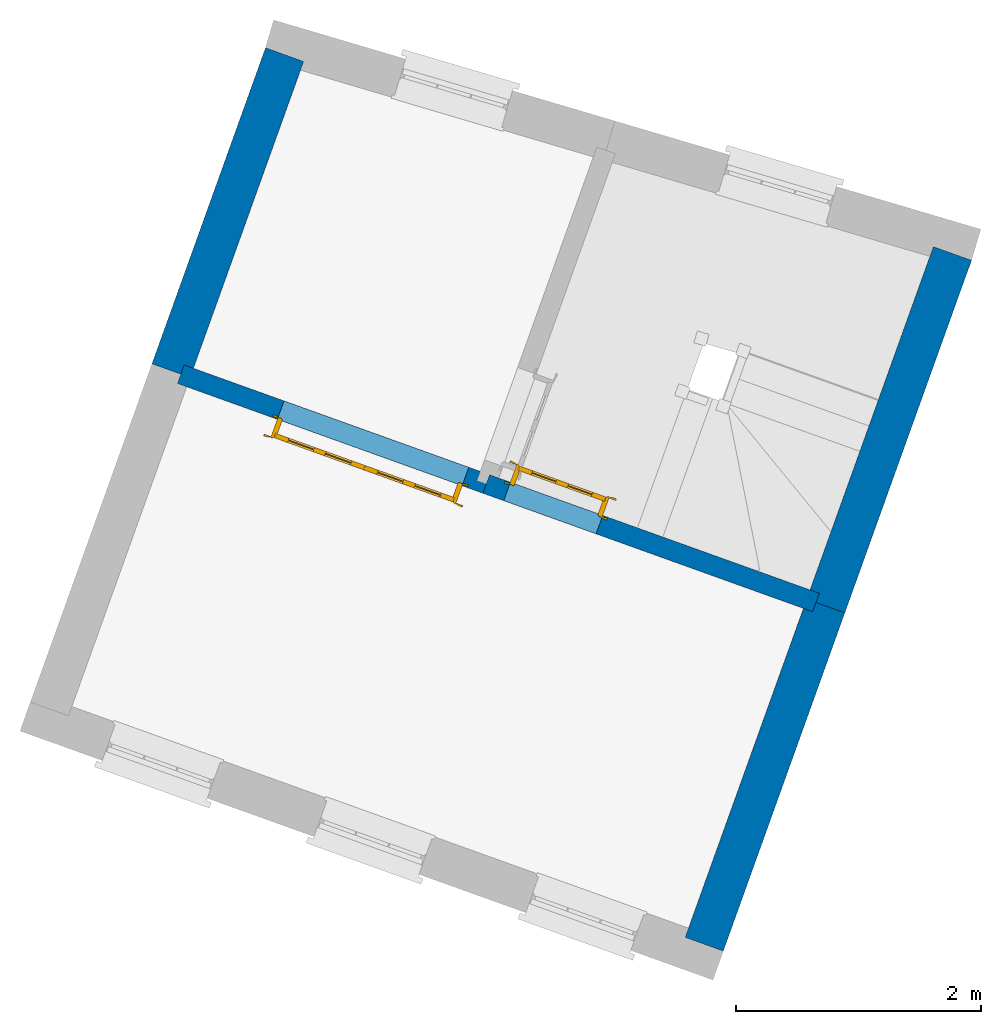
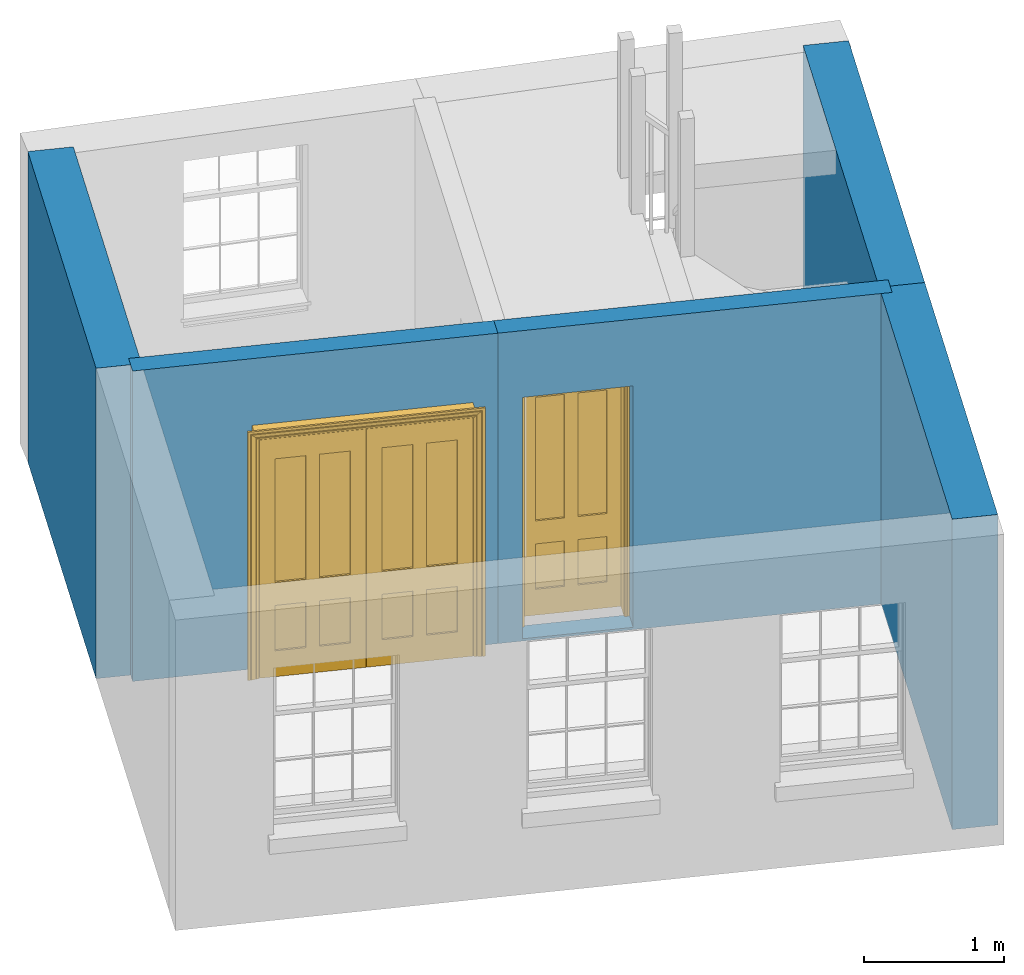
# One storey, part 2 of 4: 5 walls, 2 doors, 2 openings.
"""IFC4 building model written with IfcOpenShell, lengths in metres."""

from ifc_helpers import new_model, si_unit, frame, origin, origin_with_axes, place, context, subcontext, project, spatial, polyline, outline, extrude, faceted_brep, source, transform, mapped, material, layer, layer_set, layer_usage, type_object, type_shapes, element, fill, save


model = new_model("IFC4")

# Units and contexts
model_context = context("Model", 3, world=origin_with_axes())
body_context = subcontext(model_context, "Body", "Model", "MODEL_VIEW")
ifc_project = project(units=[si_unit("PLANEANGLEUNIT", "RADIAN"), si_unit("MASSUNIT", "GRAM", prefix="KILO"), si_unit("FORCEUNIT", "NEWTON", prefix="KILO"), si_unit("LENGTHUNIT", "METRE"), si_unit("AREAUNIT", "SQUARE_METRE"), si_unit("VOLUMEUNIT", "CUBIC_METRE")], contexts=[model_context, model_context])

# Sites, building, storey
site_1_placement = place(None, origin_with_axes())
site_1 = spatial("IfcSite", under=ifc_project, at=site_1_placement, Name="Tamar")
site_2_placement = place(site_1_placement, origin_with_axes())
site_2 = spatial("IfcSite", under=site_1, at=site_2_placement, Name="Site plot-24", CompositionType="ELEMENT")
building_placement = place(None, origin_with_axes())
building = spatial("IfcBuilding", under=site_2, at=building_placement, Name="Building plot-24", CompositionType="ELEMENT")
storey_placement = place(None, frame((0.0, 0.0, 29.3), z_axis=(0.0, 0.0, 1.0), x_axis=(1.0, 0.0, 0.0)))
storey = spatial("IfcBuildingStorey", under=building, at=storey_placement, Name="plot-24 1", CompositionType="ELEMENT", Elevation=29.3)

# Walls
ifc_material_1 = material(Name="Masonry")
ifc_layer_1 = layer(ifc_material_1, 0.33, ventilated=False)
ifc_layer_set_1 = layer_set([ifc_layer_1], Name="party_0.08_0.25")
ifc_layer_usage_1 = layer_usage(ifc_layer_set_1, "AXIS2", "POSITIVE", -0.25)
wall_type_1 = type_object("IfcWallType", Name="party_0.08_0.25", PredefinedType="SOLIDWALL", material=ifc_layer_set_1)
wall_1_placement = place(storey_placement, frame((274.190612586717, 273.359560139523, 0.0), z_axis=(0.0, 0.0, 1.0), x_axis=(0.338164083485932, 0.941087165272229, 0.0)))
element("IfcWall", 1, at=wall_1_placement, inside=storey, type_object=wall_type_1, material=ifc_layer_usage_1, Name="party", context=body_context, shape_type="SweptSolid", body=[
    extrude(outline(polyline([(1.40025904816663e-14, 0.0799999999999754), (-6.31296315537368e-15, -0.249999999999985), (2.92907107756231, -0.249999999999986), (2.92907107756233, 0.0799999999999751), (1.40025904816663e-14, 0.0799999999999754)])), origin_with_axes(), (0.0, 0.0, 1.0), 2.7),
])
wall_2_placement = place(storey_placement, frame((275.181119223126, 276.116071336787, 0.0), z_axis=(0.0, 0.0, 1.0), x_axis=(0.338164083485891, 0.941087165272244, 0.0)))
element("IfcWall", 2, at=wall_2_placement, inside=storey, type_object=wall_type_1, material=ifc_layer_usage_1, Name="party", context=body_context, shape_type="SweptSolid", body=[
    extrude(outline(polyline([(1.74309591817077e-14, 0.0799999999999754), (-1.70266153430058e-14, -0.249999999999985), (3.05239441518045, -0.249999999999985), (3.05239441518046, 0.0800000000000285), (1.74309591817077e-14, 0.0799999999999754)])), origin_with_axes(), (0.0, 0.0, 1.0), 2.7),
])
wall_3_placement = place(storey_placement, frame((270.930721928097, 280.551804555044, 0.0), z_axis=(0.0, 0.0, 1.0), x_axis=(-0.33816408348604, -0.94108716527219, 0.0)))
element("IfcWall", 3, at=wall_3_placement, inside=storey, type_object=wall_type_1, material=ifc_layer_usage_1, Name="party", context=body_context, shape_type="SweptSolid", body=[
    extrude(outline(polyline([(4.81699484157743e-15, 0.0799999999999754), (2.24418131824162e-14, -0.249999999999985), (2.73707989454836, -0.249999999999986), (2.73707989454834, 0.0799999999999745), (4.81699484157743e-15, 0.0799999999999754)])), origin_with_axes(), (0.0, 0.0, 1.0), 2.7),
])

# Wall, opening, door
ifc_material_2 = material(Name="Masonry")
ifc_layer_2 = layer(ifc_material_2, 0.16, ventilated=False)
ifc_layer_set_2 = layer_set([ifc_layer_2], Name="interior_0.08_0.08")
ifc_layer_usage_2 = layer_usage(ifc_layer_set_2, "AXIS2", "POSITIVE", -0.08)
wall_type_2 = type_object("IfcWallType", Name="interior_0.08_0.08", PredefinedType="SOLIDWALL", material=ifc_layer_set_2)
wall_4_placement = place(storey_placement, frame((272.494172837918, 277.081581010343, 0.0), z_axis=(0.0, 0.0, 1.0), x_axis=(0.941087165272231, -0.338164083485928, 0.0)))
wall_4 = element("IfcWall", 4, at=wall_4_placement, inside=storey, type_object=wall_type_2, material=ifc_layer_usage_2, Name="interior", context=body_context, shape_type="SweptSolid", body=[
    extrude(outline(polyline([(1.43223347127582e-14, 0.0799999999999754), (-1.43676590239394e-14, -0.0799999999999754), (2.85515145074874, -0.0799999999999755), (2.85515145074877, 0.0799999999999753), (1.43223347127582e-14, 0.0799999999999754)])), origin_with_axes(), (0.0, 0.0, 1.0), 2.7),
])
opening_1_placement = place(wall_4_placement, frame((0.180000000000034, 0.0, 0.0199999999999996)))
opening_1 = element("IfcOpeningElement", 5, at=opening_1_placement, cuts=wall_4, Name="My Opening", ObjectType="Opening", context=body_context, shape_type="SweptSolid", body=[
    extrude(outline(polyline([(0.0, -0.0999999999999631), (0.800000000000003, -0.0999999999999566), (0.799999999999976, 1.10000000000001), (-2.67563748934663e-14, 1.1), (0.0, -0.0999999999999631)])), origin_with_axes(), (0.0, 0.0, 1.0), 2.1),
])
door_type_1 = type_object("IfcDoorType", Name="door_inside", OperationType="SINGLE_SWING_LEFT", PredefinedType="NOTDEFINED")
shared_shape_1 = source(origin(), body_context, "Body", "Brep", [
    faceted_brep([(0.773, 0.33, 1.895), (0.66, 0.33, 1.895), (0.66, 0.33, 2.073), (0.773, 0.33, 2.073), (0.773, 0.33, 0.82), (0.66, 0.33, 0.82), (0.45, 0.33, 1.895), (0.45, 0.33, 2.073), (0.773, 0.33, 0.62), (0.66, 0.33, 0.62), (0.66, 0.315, 0.82), (0.66, 0.315, 1.895), (0.45, 0.315, 1.895), (0.35, 0.33, 1.895), (0.35, 0.33, 2.073), (0.773, 0.33, 0.225), (0.66, 0.33, 0.225), (0.45, 0.33, 0.62), (0.45, 0.33, 0.82), (0.45, 0.315, 0.82), (0.35, 0.33, 0.82), (0.14, 0.33, 2.073), (0.14, 0.33, 1.895), (0.773, 0.33, 0.0), (0.66, 0.33, 0.0), (0.66, 0.315, 0.225), (0.66, 0.315, 0.62), (0.45, 0.315, 0.62), (0.35, 0.33, 0.62), (0.35, 0.315, 0.82), (0.35, 0.315, 1.895), (0.14, 0.315, 1.895), (0.027, 0.33, 2.073), (0.027, 0.33, 1.895), (0.773, 0.292, 0.0), (0.66, 0.292, 0.0), (0.45, 0.33, 0.0), (0.45, 0.33, 0.225), (0.45, 0.315, 0.225), (0.35, 0.33, 0.225), (0.14, 0.33, 0.82), (0.14, 0.33, 0.62), (0.14, 0.315, 0.82), (0.027, 0.33, 0.82), (0.773, 0.292, 0.225), (0.66, 0.292, 0.225), (0.45, 0.292, 0.0), (0.35, 0.33, 0.0), (0.35, 0.315, 0.225), (0.35, 0.315, 0.62), (0.14, 0.315, 0.62), (0.027, 0.33, 0.62), (0.773, 0.292, 0.62), (0.66, 0.292, 0.62), (0.45, 0.292, 0.225), (0.35, 0.292, 0.0), (0.14, 0.33, 0.225), (0.14, 0.33, 0.0), (0.14, 0.315, 0.225), (0.027, 0.33, 0.225), (0.773, 0.292, 0.82), (0.66, 0.292, 0.82), (0.66, 0.307, 0.62), (0.66, 0.307, 0.225), (0.45, 0.307, 0.225), (0.35, 0.292, 0.225), (0.14, 0.292, 0.0), (0.027, 0.33, 0.0), (0.773, 0.292, 1.895), (0.66, 0.292, 1.895), (0.45, 0.292, 0.62), (0.45, 0.292, 0.82), (0.45, 0.307, 0.62), (0.35, 0.292, 0.62), (0.14, 0.292, 0.225), (0.027, 0.292, 0.0), (0.773, 0.292, 2.073), (0.66, 0.292, 2.073), (0.66, 0.307, 1.895), (0.66, 0.307, 0.82), (0.45, 0.307, 0.82), (0.35, 0.292, 0.82), (0.35, 0.307, 0.62), (0.35, 0.307, 0.225), (0.14, 0.307, 0.225), (0.027, 0.292, 0.225), (0.45, 0.292, 1.895), (0.45, 0.292, 2.073), (0.45, 0.307, 1.895), (0.35, 0.292, 1.895), (0.14, 0.292, 0.82), (0.14, 0.292, 0.62), (0.14, 0.307, 0.62), (0.027, 0.292, 0.62), (0.35, 0.292, 2.073), (0.35, 0.307, 1.895), (0.35, 0.307, 0.82), (0.14, 0.307, 0.82), (0.027, 0.292, 0.82), (0.14, 0.292, 2.073), (0.14, 0.292, 1.895), (0.14, 0.307, 1.895), (0.027, 0.292, 1.895), (0.027, 0.292, 2.073), (0.02, 0.335, 0.0), (0.005, 0.34, 0.0), (0.005, 0.34, 2.095), (0.02, 0.335, 2.08), (0.02, 0.33, 0.0), (0.0, 0.335, 0.0), (0.0, 0.335, 2.1), (0.795, 0.34, 2.095), (0.78, 0.335, 2.08), (0.02, 0.33, 2.08), (0.0, 0.33, 0.0), (-0.032, 0.345, 0.0), (-0.032, 0.345, 2.132), (0.8, 0.335, 2.1), (0.795, 0.34, 0.0), (0.78, 0.335, 0.0), (0.78, 0.33, 2.08), (0.04, 0.29, 0.0), (0.025, 0.29, 0.0), (0.025, 0.29, 2.075), (0.04, 0.29, 2.06), (-0.04, 0.34, 0.0), (-0.04, 0.34, 2.14), (0.832, 0.345, 2.132), (0.8, 0.335, 0.0), (0.78, 0.33, 0.0), (0.8, 0.33, 0.0), (0.86, 0.33, 0.0), (0.86, 0.33, 2.16), (0.8, 0.33, 2.1), (-0.06, 0.33, 2.16), (0.0, 0.33, 2.1), (-0.06, 0.33, 0.0), (-0.04, 0.345, 0.0), (-0.04, 0.345, 2.14), (0.84, 0.34, 2.14), (0.832, 0.345, 0.0), (0.84, 0.34, 0.0), (0.86, 0.345, 0.0), (0.86, 0.345, 2.16), (-0.06, 0.345, 2.16), (-0.06, 0.345, 0.0), (0.84, 0.345, 0.0), (0.84, 0.345, 2.14), (-0.025, 0.155, 0.0), (-0.025, 0.16, 0.0), (-0.025, 0.16, 2.125), (-0.025, 0.155, 2.125), (-0.017, 0.155, 0.0), (-0.017, 0.155, 2.117), (0.825, 0.16, 2.125), (0.825, 0.155, 2.125), (0.825, 0.155, 0.0), (0.845, 0.155, 0.0), (-0.045, 0.155, 2.145), (-0.045, 0.155, 0.0), (0.845, 0.155, 2.145), (0.015, 0.165, 0.0), (0.015, 0.165, 2.085), (0.817, 0.155, 2.117), (0.825, 0.16, 0.0), (0.845, 0.17, 0.0), (0.845, 0.17, 2.145), (-0.045, 0.17, 2.145), (-0.045, 0.17, 0.0), (0.02, 0.16, 0.0), (0.02, 0.16, 2.08), (0.785, 0.165, 2.085), (0.817, 0.155, 0.0), (0.8, 0.17, 0.0), (0.8, 0.17, 2.1), (0.0, 0.17, 2.1), (0.0, 0.17, 0.0), (0.035, 0.165, 0.0), (0.035, 0.165, 2.065), (0.78, 0.16, 2.08), (0.785, 0.165, 0.0), (0.775, 0.29, 2.075), (0.76, 0.29, 2.06), (0.035, 0.17, 2.065), (0.035, 0.17, 0.0), (0.765, 0.165, 2.065), (0.78, 0.16, 0.0), (0.765, 0.17, 0.0), (0.765, 0.17, 2.065), (0.765, 0.165, 0.0), (0.04, 0.17, 2.06), (0.04, 0.17, 0.0), (0.76, 0.17, 2.06), (0.76, 0.17, 0.0), (0.76, 0.29, 0.0), (0.775, 0.29, 0.0), (0.025, 0.33, 0.0), (0.025, 0.33, 2.075), (0.775, 0.33, 0.0), (0.775, 0.33, 2.075)], [[[0, 1, 2, 3]], [[1, 0, 4, 5]], [[1, 6, 7, 2]], [[8, 9, 5, 4]], [[1, 5, 10, 11]], [[6, 1, 11, 12]], [[6, 13, 14, 7]], [[15, 16, 9, 8]], [[9, 17, 18, 5]], [[5, 18, 19, 10]], [[10, 19, 12, 11]], [[18, 6, 12, 19]], [[18, 20, 13, 6]], [[21, 14, 13, 22]], [[23, 24, 16, 15]], [[9, 16, 25, 26]], [[17, 9, 26, 27]], [[17, 28, 20, 18]], [[13, 20, 29, 30]], [[22, 13, 30, 31]], [[32, 21, 22, 33]], [[34, 35, 24, 23]], [[24, 36, 37, 16]], [[16, 37, 38, 25]], [[25, 38, 27, 26]], [[37, 17, 27, 38]], [[37, 39, 28, 17]], [[40, 20, 28, 41]], [[20, 40, 42, 29]], [[31, 30, 29, 42]], [[40, 22, 31, 42]], [[33, 22, 40, 43]], [[35, 34, 44, 45]], [[35, 46, 36, 24]], [[36, 47, 39, 37]], [[28, 39, 48, 49]], [[41, 28, 49, 50]], [[43, 40, 41, 51]], [[45, 44, 52, 53]], [[46, 35, 45, 54]], [[46, 55, 47, 36]], [[56, 39, 47, 57]], [[39, 56, 58, 48]], [[50, 49, 48, 58]], [[56, 41, 50, 58]], [[51, 41, 56, 59]], [[53, 52, 60, 61]], [[45, 53, 62, 63]], [[54, 45, 63, 64]], [[55, 46, 54, 65]], [[55, 66, 57, 47]], [[59, 56, 57, 67]], [[61, 60, 68, 69]], [[70, 53, 61, 71]], [[53, 70, 72, 62]], [[72, 64, 63, 62]], [[70, 54, 64, 72]], [[65, 54, 70, 73]], [[65, 74, 66, 55]], [[67, 57, 66, 75]], [[69, 68, 76, 77]], [[61, 69, 78, 79]], [[71, 61, 79, 80]], [[73, 70, 71, 81]], [[65, 73, 82, 83]], [[74, 65, 83, 84]], [[74, 85, 75, 66]], [[86, 69, 77, 87]], [[69, 86, 88, 78]], [[88, 80, 79, 78]], [[86, 71, 80, 88]], [[81, 71, 86, 89]], [[73, 81, 90, 91]], [[73, 91, 92, 82]], [[83, 82, 92, 84]], [[91, 74, 84, 92]], [[91, 93, 85, 74]], [[89, 86, 87, 94]], [[81, 89, 95, 96]], [[90, 81, 96, 97]], [[90, 98, 93, 91]], [[94, 99, 100, 89]], [[89, 100, 101, 95]], [[101, 97, 96, 95]], [[100, 90, 97, 101]], [[100, 102, 98, 90]], [[99, 103, 102, 100]], [[32, 103, 99, 21]], [[102, 103, 32, 33]], [[98, 102, 33, 43]], [[21, 99, 94, 14]], [[94, 87, 7, 14]], [[7, 87, 77, 2]], [[76, 3, 2, 77]], [[43, 51, 93, 98]], [[51, 59, 85, 93]], [[67, 75, 85, 59]], [[34, 23, 15, 44]], [[44, 15, 8, 52]], [[52, 8, 4, 60]], [[0, 68, 60, 4]], [[0, 3, 76, 68]], [[104, 105, 106, 107]], [[104, 108, 109, 105]], [[105, 109, 110, 106]], [[107, 106, 111, 112]], [[107, 113, 108, 104]], [[114, 109, 108]], [[109, 115, 116, 110]], [[106, 110, 117, 111]], [[112, 111, 118, 119]], [[113, 107, 112, 120]], [[121, 122, 123, 124]], [[115, 109, 114, 125]], [[115, 125, 126, 116]], [[110, 116, 127, 117]], [[111, 117, 128, 118]], [[118, 128, 129, 119]], [[120, 112, 119, 129]], [[130, 129, 128]], [[130, 131, 132, 133]], [[133, 132, 134, 135]], [[135, 134, 136, 114]], [[136, 125, 114]], [[125, 137, 138, 126]], [[116, 126, 139, 127]], [[117, 127, 140, 128]], [[141, 130, 128, 140]], [[131, 130, 141]], [[131, 142, 143, 132]], [[132, 143, 144, 134]], [[134, 144, 145, 136]], [[137, 125, 136, 145]], [[143, 142, 146]], [[143, 146, 147]], [[137, 145, 144]], [[143, 147, 138]], [[138, 137, 144]], [[143, 138, 144]], [[126, 138, 147, 139]], [[127, 139, 141, 140]], [[142, 131, 141, 146]], [[139, 147, 146, 141]], [[148, 149, 150, 151]], [[149, 152, 153, 150]], [[151, 150, 154, 155]], [[155, 156, 157]], [[158, 159, 148]], [[158, 148, 151]], [[155, 157, 160]], [[158, 151, 155]], [[155, 160, 158]], [[152, 161, 162, 153]], [[150, 153, 163, 154]], [[155, 154, 164, 156]], [[156, 164, 165, 157]], [[157, 165, 166, 160]], [[160, 166, 167, 158]], [[158, 167, 168, 159]], [[161, 169, 170, 162]], [[153, 162, 171, 163]], [[154, 163, 172, 164]], [[165, 164, 173]], [[165, 173, 174, 166]], [[166, 174, 175, 167]], [[167, 175, 176, 168]], [[169, 177, 178, 170]], [[162, 170, 179, 171]], [[163, 171, 180, 172]], [[172, 180, 173, 164]], [[124, 123, 181, 182]], [[183, 178, 177, 184]], [[170, 178, 185, 179]], [[171, 179, 186, 180]], [[187, 173, 180]], [[185, 188, 187, 189]], [[188, 185, 178, 183]], [[179, 185, 189, 186]], [[189, 187, 180, 186]], [[190, 183, 184, 191]], [[192, 188, 183, 190]], [[191, 184, 122, 121]], [[124, 190, 191, 121]], [[193, 187, 188, 192]], [[182, 192, 190, 124]], [[184, 176, 122]], [[194, 195, 187, 193]], [[192, 182, 194, 193]], [[161, 176, 184]], [[114, 108, 122, 176]], [[173, 187, 195]], [[152, 149, 176, 161]], [[169, 161, 184, 177]], [[196, 122, 108]], [[176, 175, 135, 114]], [[173, 195, 129, 130]], [[176, 149, 168]], [[123, 122, 196, 197]], [[196, 108, 113, 197]], [[175, 174, 133, 135]], [[198, 129, 195]], [[133, 174, 173, 130]], [[159, 168, 149, 148]], [[181, 123, 197, 199]], [[197, 113, 120, 199]], [[199, 120, 129, 198]], [[195, 181, 199, 198]], [[195, 194, 182, 181]]]),
])
type_shapes(door_type_1, [shared_shape_1])
door_1_placement = place(storey_placement, frame((272.629752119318, 276.926602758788, 0.0199999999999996), z_axis=(0.0, 0.0, 1.0), x_axis=(0.752869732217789, -0.270531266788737, 0.0)))
door_1 = element("IfcDoor", 6, at=door_1_placement, inside=storey, type_object=door_type_1, Name="living inside door", OverallHeight=2.1, OverallWidth=0.8, context=body_context, shape_type="MappedRepresentation", body=[
    mapped(shared_shape_1, transform((0.0, 0.0, 0.0), scale=1.0)),
])
fill(opening_1, door_1)

wall_5_placement = place(storey_placement, frame((272.494172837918, 277.081581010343, 0.0), z_axis=(0.0, 0.0, 1.0), x_axis=(-0.941087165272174, 0.338164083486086, 0.0)))
wall_5 = element("IfcWall", 7, at=wall_5_placement, inside=storey, type_object=wall_type_2, material=ifc_layer_usage_2, Name="interior", context=body_context, shape_type="SweptSolid", body=[
    extrude(outline(polyline([(9.28604143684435e-16, 0.0799999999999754), (-8.83279832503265e-16, -0.0799999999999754), (2.64484854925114, -0.0799999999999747), (2.64484854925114, 0.0799999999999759), (9.28604143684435e-16, 0.0799999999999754)])), origin_with_axes(), (0.0, 0.0, 1.0), 2.7),
])
opening_2_placement = place(wall_5_placement, frame((0.179999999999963, 0.0, 0.0199999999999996)))
opening_2 = element("IfcOpeningElement", 8, at=opening_2_placement, cuts=wall_5, Name="My Opening", ObjectType="Opening", context=body_context, shape_type="SweptSolid", body=[
    extrude(outline(polyline([(0.0, -0.100000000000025), (1.60000000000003, -0.0999999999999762), (1.60000000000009, 1.10000000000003), (5.83699755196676e-14, 1.09999999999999), (0.0, -0.100000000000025)])), origin_with_axes(), (0.0, 0.0, 1.0), 2.1),
])
door_type_2 = type_object("IfcDoorType", Name="door_inside_double", OperationType="SINGLE_SWING_LEFT", PredefinedType="NOTDEFINED")
shared_shape_2 = source(origin(), body_context, "Body", "Brep", [
    faceted_brep([(0.14, 0.307, 1.895), (0.14, 0.307, 0.82), (0.363, 0.307, 0.82), (0.363, 0.307, 1.895), (0.14, 0.292, 1.895), (0.14, 0.292, 0.82), (0.363, 0.292, 0.82), (0.363, 0.292, 1.895), (0.027, 0.292, 1.895), (0.027, 0.292, 0.82), (0.363, 0.292, 0.62), (0.14, 0.292, 0.62), (0.463, 0.292, 0.82), (0.463, 0.292, 1.895), (0.363, 0.292, 2.073), (0.14, 0.292, 2.073), (0.027, 0.292, 2.073), (0.027, 0.33, 1.895), (0.027, 0.33, 0.82), (0.027, 0.292, 0.62), (0.463, 0.292, 0.62), (0.14, 0.307, 0.62), (0.363, 0.307, 0.62), (0.463, 0.307, 0.82), (0.463, 0.307, 1.895), (0.463, 0.292, 2.073), (0.14, 0.33, 2.073), (0.363, 0.33, 2.073), (0.027, 0.33, 2.073), (0.14, 0.33, 1.895), (0.14, 0.33, 0.82), (0.027, 0.33, 0.62), (0.027, 0.292, 0.225), (0.14, 0.292, 0.225), (0.363, 0.292, 0.225), (0.463, 0.292, 0.225), (0.686, 0.292, 0.62), (0.686, 0.292, 0.82), (0.14, 0.307, 0.225), (0.363, 0.307, 0.225), (0.686, 0.307, 0.82), (0.686, 0.307, 1.895), (0.686, 0.292, 1.895), (0.686, 0.292, 2.073), (0.463, 0.33, 2.073), (0.363, 0.33, 1.895), (0.14, 0.315, 1.895), (0.14, 0.315, 0.82), (0.14, 0.33, 0.62), (0.027, 0.33, 0.225), (0.027, 0.292, 0.0), (0.14, 0.292, 0.0), (0.363, 0.292, 0.0), (0.463, 0.292, 0.0), (0.463, 0.307, 0.225), (0.463, 0.307, 0.62), (0.686, 0.307, 0.62), (0.799, 0.292, 0.62), (0.799, 0.292, 0.82), (0.799, 0.292, 1.895), (0.799, 0.292, 2.073), (0.686, 0.33, 2.073), (0.463, 0.33, 1.895), (0.363, 0.315, 1.895), (0.363, 0.315, 0.82), (0.363, 0.33, 0.82), (0.363, 0.33, 0.62), (0.14, 0.33, 0.225), (0.027, 0.33, 0.0), (0.14, 0.33, 0.0), (0.363, 0.33, 0.0), (0.463, 0.33, 0.0), (0.686, 0.292, 0.0), (0.686, 0.292, 0.225), (0.686, 0.307, 0.225), (0.799, 0.292, 0.225), (0.799, 0.33, 0.62), (0.799, 0.33, 0.82), (0.799, 0.33, 1.895), (0.799, 0.33, 2.073), (0.686, 0.33, 1.895), (0.463, 0.33, 0.82), (0.463, 0.33, 0.62), (0.363, 0.315, 0.62), (0.14, 0.315, 0.62), (0.14, 0.315, 0.225), (0.363, 0.33, 0.225), (0.463, 0.33, 0.225), (0.686, 0.33, 0.0), (0.799, 0.292, 0.0), (0.799, 0.33, 0.225), (0.686, 0.33, 0.62), (0.686, 0.33, 0.82), (0.686, 0.315, 1.895), (0.463, 0.315, 1.895), (0.463, 0.315, 0.82), (0.363, 0.315, 0.225), (0.686, 0.33, 0.225), (0.799, 0.33, 0.0), (0.686, 0.315, 0.82), (0.463, 0.315, 0.62), (0.463, 0.315, 0.225), (0.686, 0.315, 0.62), (0.686, 0.315, 0.225), (1.46, 0.33, 1.895), (1.237, 0.33, 1.895), (1.237, 0.33, 2.073), (1.46, 0.33, 2.073), (1.46, 0.315, 1.895), (1.237, 0.315, 1.895), (1.137, 0.33, 1.895), (1.137, 0.33, 2.073), (1.237, 0.292, 2.073), (1.46, 0.292, 2.073), (1.573, 0.33, 1.895), (1.573, 0.33, 2.073), (1.46, 0.33, 0.82), (1.46, 0.315, 0.82), (1.237, 0.315, 0.82), (1.237, 0.33, 0.82), (1.137, 0.33, 0.82), (0.914, 0.33, 2.073), (0.914, 0.33, 1.895), (1.137, 0.292, 2.073), (1.237, 0.292, 1.895), (1.46, 0.292, 1.895), (1.573, 0.292, 2.073), (1.573, 0.33, 0.82), (1.573, 0.292, 1.895), (1.237, 0.33, 0.62), (1.137, 0.33, 0.62), (1.137, 0.315, 0.82), (1.137, 0.315, 1.895), (0.914, 0.292, 2.073), (0.914, 0.315, 1.895), (0.801, 0.33, 2.073), (0.801, 0.33, 1.895), (1.137, 0.292, 1.895), (1.237, 0.307, 1.895), (1.46, 0.307, 1.895), (1.573, 0.292, 0.82), (1.573, 0.33, 0.62), (1.46, 0.33, 0.62), (1.237, 0.33, 0.225), (1.137, 0.33, 0.225), (0.914, 0.33, 0.82), (0.914, 0.33, 0.62), (0.914, 0.315, 0.82), (0.801, 0.292, 2.073), (0.914, 0.292, 1.895), (0.801, 0.33, 0.82), (0.801, 0.292, 1.895), (1.137, 0.292, 0.82), (1.237, 0.292, 0.82), (1.237, 0.307, 0.82), (1.46, 0.307, 0.82), (1.46, 0.292, 0.82), (1.573, 0.292, 0.62), (1.573, 0.33, 0.225), (1.46, 0.33, 0.225), (1.46, 0.315, 0.62), (1.237, 0.315, 0.62), (1.237, 0.33, 0.0), (1.137, 0.33, 0.0), (1.137, 0.315, 0.225), (1.137, 0.315, 0.62), (1.237, 0.315, 0.225), (0.914, 0.315, 0.62), (0.801, 0.33, 0.62), (0.914, 0.307, 1.895), (1.137, 0.307, 1.895), (0.801, 0.292, 0.82), (1.137, 0.292, 0.62), (1.237, 0.292, 0.62), (1.137, 0.307, 0.82), (1.46, 0.292, 0.62), (1.573, 0.292, 0.225), (1.573, 0.33, 0.0), (1.46, 0.33, 0.0), (1.46, 0.315, 0.225), (1.237, 0.292, 0.0), (1.137, 0.292, 0.0), (0.914, 0.33, 0.225), (0.914, 0.33, 0.0), (0.914, 0.315, 0.225), (0.801, 0.33, 0.225), (0.801, 0.292, 0.62), (0.914, 0.292, 0.82), (0.914, 0.307, 0.82), (1.137, 0.292, 0.225), (1.237, 0.292, 0.225), (0.914, 0.292, 0.62), (1.46, 0.292, 0.225), (1.573, 0.292, 0.0), (1.46, 0.292, 0.0), (0.914, 0.292, 0.0), (0.801, 0.33, 0.0), (0.801, 0.292, 0.225), (1.237, 0.307, 0.225), (1.237, 0.307, 0.62), (1.137, 0.307, 0.62), (1.137, 0.307, 0.225), (1.46, 0.307, 0.62), (0.914, 0.307, 0.62), (1.46, 0.307, 0.225), (0.914, 0.292, 0.225), (0.801, 0.292, 0.0), (0.914, 0.307, 0.225), (0.02, 0.335, 0.0), (0.005, 0.34, 0.0), (0.005, 0.34, 2.095), (0.02, 0.335, 2.08), (0.02, 0.33, 0.0), (0.0, 0.335, 0.0), (0.0, 0.335, 2.1), (1.595, 0.34, 2.095), (1.58, 0.335, 2.08), (0.02, 0.33, 2.08), (0.0, 0.33, 0.0), (-0.032, 0.345, 0.0), (-0.032, 0.345, 2.132), (1.6, 0.335, 2.1), (1.595, 0.34, 0.0), (1.58, 0.335, 0.0), (1.58, 0.33, 2.08), (0.025, 0.33, 0.0), (0.025, 0.33, 2.075), (-0.04, 0.34, 0.0), (0.025, 0.29, 0.0), (0.0, 0.17, 0.0), (-0.04, 0.34, 2.14), (1.632, 0.345, 2.132), (1.6, 0.335, 0.0), (1.58, 0.33, 0.0), (1.575, 0.33, 2.075), (0.025, 0.29, 2.075), (-0.06, 0.33, 0.0), (0.035, 0.17, 0.0), (0.0, 0.17, 2.1), (0.0, 0.33, 2.1), (-0.04, 0.345, 0.0), (-0.04, 0.345, 2.14), (1.64, 0.34, 2.14), (1.632, 0.345, 0.0), (1.6, 0.33, 0.0), (1.575, 0.33, 0.0), (1.575, 0.29, 2.075), (0.04, 0.29, 0.0), (0.04, 0.29, 2.06), (-0.06, 0.345, 0.0), (-0.06, 0.33, 2.16), (0.015, 0.165, 0.0), (0.04, 0.17, 0.0), (-0.045, 0.17, 2.145), (-0.045, 0.17, 0.0), (1.6, 0.17, 2.1), (1.6, 0.33, 2.1), (-0.06, 0.345, 2.16), (1.64, 0.345, 2.14), (1.64, 0.34, 0.0), (1.6, 0.17, 0.0), (1.575, 0.29, 0.0), (1.56, 0.29, 2.06), (0.04, 0.17, 2.06), (1.66, 0.33, 2.16), (-0.017, 0.155, 0.0), (-0.025, 0.16, 0.0), (0.02, 0.16, 0.0), (0.035, 0.165, 0.0), (0.035, 0.17, 2.065), (1.645, 0.17, 2.145), (-0.045, 0.155, 2.145), (-0.045, 0.155, 0.0), (1.66, 0.345, 2.16), (1.64, 0.345, 0.0), (1.66, 0.33, 0.0), (1.565, 0.17, 0.0), (1.56, 0.29, 0.0), (1.56, 0.17, 2.06), (-0.017, 0.155, 2.117), (-0.025, 0.16, 2.125), (0.015, 0.165, 2.085), (0.02, 0.16, 2.08), (0.035, 0.165, 2.065), (1.565, 0.17, 2.065), (1.645, 0.17, 0.0), (1.645, 0.155, 2.145), (-0.025, 0.155, 0.0), (1.66, 0.345, 0.0), (1.585, 0.165, 0.0), (1.56, 0.17, 0.0), (1.617, 0.155, 2.117), (1.625, 0.16, 2.125), (-0.025, 0.155, 2.125), (1.585, 0.165, 2.085), (1.58, 0.16, 2.08), (1.565, 0.165, 2.065), (1.625, 0.16, 0.0), (1.645, 0.155, 0.0), (1.625, 0.155, 2.125), (1.617, 0.155, 0.0), (1.565, 0.165, 0.0), (1.58, 0.16, 0.0), (1.625, 0.155, 0.0)], [[[0, 1, 2, 3]], [[1, 0, 4, 5]], [[2, 1, 5, 6]], [[6, 7, 3, 2]], [[7, 4, 0, 3]], [[4, 8, 9, 5]], [[10, 6, 5, 11]], [[6, 12, 13, 7]], [[14, 15, 4, 7]], [[15, 16, 8, 4]], [[9, 8, 17, 18]], [[5, 9, 19, 11]], [[10, 20, 12, 6]], [[10, 11, 21, 22]], [[13, 12, 23, 24]], [[7, 13, 25, 14]], [[26, 15, 14, 27]], [[28, 16, 15, 26]], [[8, 16, 28, 17]], [[17, 29, 30, 18]], [[18, 31, 19, 9]], [[11, 19, 32, 33]], [[34, 35, 20, 10]], [[20, 36, 37, 12]], [[11, 33, 38, 21]], [[39, 22, 21, 38]], [[34, 10, 22, 39]], [[12, 37, 40, 23]], [[24, 23, 40, 41]], [[42, 13, 24, 41]], [[13, 42, 43, 25]], [[14, 25, 44, 27]], [[26, 27, 45, 29]], [[28, 26, 29, 17]], [[30, 29, 46, 47]], [[18, 30, 48, 31]], [[31, 49, 32, 19]], [[33, 32, 50, 51]], [[52, 53, 35, 34]], [[20, 35, 54, 55]], [[36, 20, 55, 56]], [[36, 57, 58, 37]], [[33, 34, 39, 38]], [[37, 42, 41, 40]], [[42, 59, 60, 43]], [[44, 25, 43, 61]], [[62, 45, 27, 44]], [[29, 45, 63, 46]], [[46, 63, 64, 47]], [[65, 30, 47, 64]], [[30, 65, 66, 48]], [[31, 48, 67, 49]], [[68, 50, 32, 49]], [[68, 69, 51, 50]], [[34, 33, 51, 52]], [[53, 52, 70, 71]], [[53, 72, 73, 35]], [[35, 73, 74, 54]], [[55, 54, 74, 56]], [[73, 36, 56, 74]], [[73, 75, 57, 36]], [[57, 76, 77, 58]], [[37, 58, 59, 42]], [[78, 79, 60, 59]], [[60, 79, 61, 43]], [[80, 62, 44, 61]], [[81, 65, 45, 62]], [[45, 65, 64, 63]], [[82, 66, 65, 81]], [[48, 66, 83, 84]], [[67, 48, 84, 85]], [[49, 67, 69, 68]], [[52, 51, 69, 70]], [[71, 70, 86, 87]], [[72, 53, 71, 88]], [[72, 89, 75, 73]], [[75, 90, 76, 57]], [[76, 91, 92, 77]], [[78, 59, 58, 77]], [[78, 80, 61, 79]], [[62, 80, 93, 94]], [[81, 62, 94, 95]], [[87, 86, 66, 82]], [[91, 82, 81, 92]], [[66, 86, 96, 83]], [[84, 83, 96, 85]], [[86, 67, 85, 96]], [[67, 86, 70, 69]], [[88, 71, 87, 97]], [[89, 72, 88, 98]], [[89, 98, 90, 75]], [[90, 97, 91, 76]], [[80, 78, 77, 92]], [[80, 92, 99, 93]], [[99, 95, 94, 93]], [[92, 81, 95, 99]], [[87, 82, 100, 101]], [[82, 91, 102, 100]], [[97, 87, 101, 103]], [[98, 88, 97, 90]], [[91, 97, 103, 102]], [[103, 101, 100, 102]], [[104, 105, 106, 107]], [[105, 104, 108, 109]], [[105, 110, 111, 106]], [[106, 112, 113, 107]], [[114, 104, 107, 115]], [[104, 116, 117, 108]], [[117, 118, 109, 108]], [[119, 105, 109, 118]], [[119, 120, 110, 105]], [[121, 111, 110, 122]], [[123, 112, 106, 111]], [[124, 125, 113, 112]], [[126, 115, 107, 113]], [[104, 114, 127, 116]], [[114, 115, 126, 128]], [[116, 119, 118, 117]], [[129, 130, 120, 119]], [[110, 120, 131, 132]], [[121, 133, 123, 111]], [[122, 110, 132, 134]], [[135, 121, 122, 136]], [[137, 124, 112, 123]], [[125, 124, 138, 139]], [[125, 128, 126, 113]], [[114, 128, 140, 127]], [[141, 142, 116, 127]], [[142, 129, 119, 116]], [[143, 144, 130, 129]], [[145, 120, 130, 146]], [[120, 145, 147, 131]], [[134, 132, 131, 147]], [[135, 148, 133, 121]], [[123, 133, 149, 137]], [[145, 122, 134, 147]], [[136, 122, 145, 150]], [[151, 148, 135, 136]], [[152, 153, 124, 137]], [[124, 153, 154, 138]], [[138, 154, 155, 139]], [[156, 125, 139, 155]], [[156, 140, 128, 125]], [[157, 141, 127, 140]], [[158, 159, 142, 141]], [[129, 142, 160, 161]], [[162, 163, 144, 143]], [[130, 144, 164, 165]], [[143, 129, 161, 166]], [[146, 130, 165, 167]], [[150, 145, 146, 168]], [[133, 148, 151, 149]], [[137, 149, 169, 170]], [[171, 151, 136, 150]], [[172, 173, 153, 152]], [[152, 137, 170, 174]], [[153, 156, 155, 154]], [[175, 157, 140, 156]], [[176, 158, 141, 157]], [[177, 178, 159, 158]], [[142, 159, 179, 160]], [[179, 166, 161, 160]], [[180, 181, 163, 162]], [[182, 144, 163, 183]], [[178, 162, 143, 159]], [[144, 182, 184, 164]], [[167, 165, 164, 184]], [[159, 143, 166, 179]], [[182, 146, 167, 184]], [[168, 146, 182, 185]], [[150, 168, 186, 171]], [[149, 151, 171, 187]], [[149, 187, 188, 169]], [[169, 188, 174, 170]], [[189, 190, 173, 172]], [[173, 175, 156, 153]], [[172, 152, 187, 191]], [[187, 152, 174, 188]], [[192, 176, 157, 175]], [[193, 177, 158, 176]], [[193, 194, 178, 177]], [[181, 180, 190, 189]], [[181, 195, 183, 163]], [[194, 180, 162, 178]], [[185, 182, 183, 196]], [[168, 185, 197, 186]], [[187, 171, 186, 191]], [[173, 190, 198, 199]], [[189, 172, 200, 201]], [[175, 173, 199, 202]], [[172, 191, 203, 200]], [[194, 193, 176, 192]], [[192, 175, 202, 204]], [[180, 194, 192, 190]], [[189, 205, 195, 181]], [[196, 183, 195, 206]], [[196, 206, 197, 185]], [[191, 186, 197, 205]], [[190, 192, 204, 198]], [[199, 198, 204, 202]], [[201, 200, 203, 207]], [[205, 189, 201, 207]], [[191, 205, 207, 203]], [[205, 197, 206, 195]], [[208, 209, 210, 211]], [[208, 212, 213, 209]], [[209, 213, 214, 210]], [[211, 210, 215, 216]], [[211, 217, 212, 208]], [[218, 213, 212]], [[213, 219, 220, 214]], [[210, 214, 221, 215]], [[216, 215, 222, 223]], [[217, 211, 216, 224]], [[225, 212, 217, 226]], [[219, 213, 218, 227]], [[218, 212, 228, 229]], [[219, 227, 230, 220]], [[214, 220, 231, 221]], [[215, 221, 232, 222]], [[222, 232, 233, 223]], [[224, 216, 223, 233]], [[226, 217, 224, 234]], [[225, 228, 212]], [[235, 228, 225, 226]], [[236, 227, 218]], [[237, 229, 228]], [[229, 238, 239, 218]], [[227, 240, 241, 230]], [[220, 230, 242, 231]], [[221, 231, 243, 232]], [[244, 233, 232]], [[234, 224, 233, 245]], [[246, 235, 226, 234]], [[247, 228, 235, 248]], [[240, 227, 236, 249]], [[239, 250, 236, 218]], [[251, 229, 237]], [[252, 237, 228, 247]], [[253, 238, 229, 254]], [[238, 255, 256, 239]], [[241, 240, 257]], [[230, 241, 258, 242]], [[231, 242, 259, 243]], [[259, 244, 232, 243]], [[260, 261, 233, 244]], [[245, 233, 261]], [[261, 246, 234, 245]], [[248, 235, 246, 262]], [[248, 263, 252, 247]], [[250, 257, 249, 236]], [[240, 249, 257]], [[256, 264, 250, 239]], [[265, 266, 229, 251]], [[267, 251, 237, 268]], [[263, 269, 237, 252]], [[270, 255, 238, 253]], [[229, 266, 254]], [[271, 253, 254, 272]], [[256, 255, 260, 244]], [[273, 241, 257]], [[273, 258, 241]], [[242, 258, 274, 259]], [[275, 244, 259]], [[260, 276, 261]], [[261, 277, 262, 246]], [[262, 278, 263, 248]], [[264, 273, 257, 250]], [[244, 275, 264, 256]], [[266, 265, 279, 280]], [[265, 251, 281, 279]], [[251, 267, 282, 281]], [[269, 283, 268, 237]], [[267, 268, 283, 282]], [[278, 284, 269, 263]], [[285, 260, 255, 270]], [[286, 270, 253, 271]], [[272, 254, 266, 287]], [[271, 272, 287]], [[273, 274, 258]], [[288, 275, 259, 274]], [[276, 260, 289]], [[277, 261, 276, 290]], [[278, 262, 277, 290]], [[275, 288, 273, 264]], [[280, 279, 291, 292]], [[287, 266, 280, 293]], [[279, 281, 294, 291]], [[281, 282, 295, 294]], [[284, 296, 283, 269]], [[282, 283, 296, 295]], [[290, 276, 284, 278]], [[285, 297, 260]], [[298, 285, 270, 286]], [[299, 286, 271]], [[271, 287, 293]], [[273, 288, 274]], [[300, 289, 260, 297]], [[301, 276, 289, 302]], [[292, 291, 300, 297]], [[293, 280, 292, 299]], [[291, 294, 289, 300]], [[294, 295, 302, 289]], [[296, 284, 276, 301]], [[295, 296, 301, 302]], [[303, 297, 285, 298]], [[299, 298, 286]], [[271, 293, 299]], [[299, 292, 297, 303]], [[299, 303, 298]]]),
])
type_shapes(door_type_2, [shared_shape_2])
door_2_placement = place(storey_placement, frame((272.358593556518, 277.236559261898, 0.0199999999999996), z_axis=(0.0, 0.0, 1.0), x_axis=(-1.50573946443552, 0.541062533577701, 0.0)))
door_2 = element("IfcDoor", 9, at=door_2_placement, inside=storey, type_object=door_type_2, Name="kitchen living inside door", OverallHeight=2.1, OverallWidth=1.6, context=body_context, shape_type="MappedRepresentation", body=[
    mapped(shared_shape_2, transform((0.0, 0.0, 0.0), scale=1.0)),
])
fill(opening_2, door_2)

save(model, "model.ifc")
